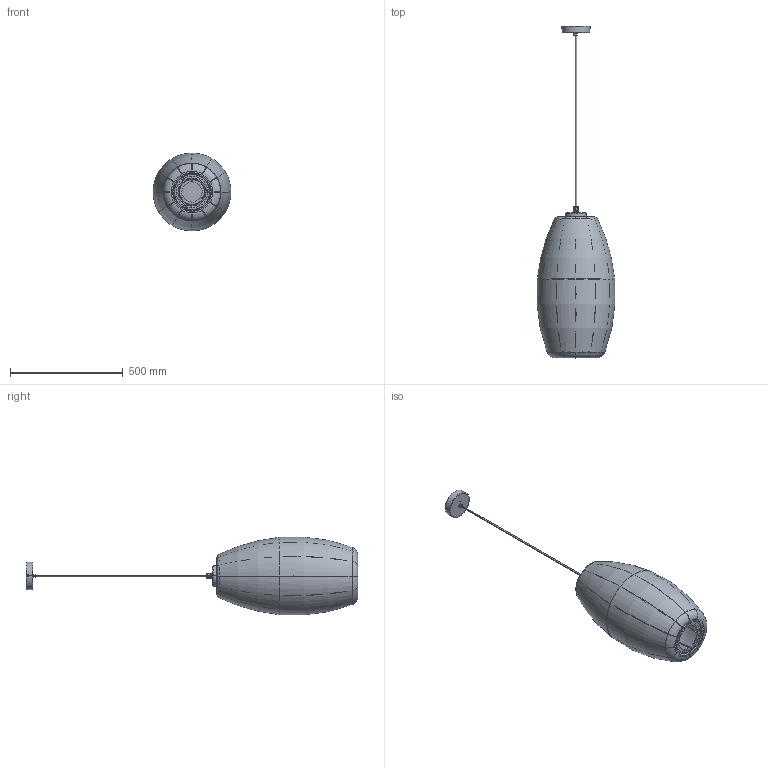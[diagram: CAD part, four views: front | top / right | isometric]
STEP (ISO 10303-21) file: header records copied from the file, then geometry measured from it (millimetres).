
FILE_DESCRIPTION (( 'STEP AP203' ), '1' );
FILE_NAME ('CA.S134.16.STEP', '2026-03-09T13:38:17', ( '' ), ( '' ), 'SwSTEP 2.0', 'SolidWorks 2013', '' );
FILE_SCHEMA (( 'CONFIG_CONTROL_DESIGN' ));
Length unit declared in the file: millimetre
Products named in the file (22): EK44; GI429_Disco Ø136_Ø92; DIN7380 M3x10; AR071_FLORÓ ø120x30 2xM4 sistema USA; GI420_disc embellidor Ø110_Ø90 3T Ø3.8; AR115_Caixa conjunt LED + disc Ø108 soldat; famella premsaestopa M16x1.5; TC170_Difusor Ø110 3T Ø3.8; AMS352_Armaçó Ø340x620 12 radis (entrada plana)_v2; XV001_Suport alumini Ø110x20_230724; Conjunt NOU mòdul LED; CG-M16-1_PREMSAESTOPA M16; AR115.01_Caixa amb escaló Ø111x46; CA.S134.16; AR115.02_Disc Ø108 3T M3; GI416_Disc embellidor Ø156_Ø122; TECH144.16_Conjunt LED outdoor_2023; AG019_M4x8; KO014_CABLE TRANSP.800mm; Ø70_CL386_XI_BB 11,4W a 500mA (EA); S-12-02-FOAM; Teixit pantalla Ø345x625
Assembly tree (26 placements, depth 5):
  CA.S134.16
    TECH144.16_Conjunt LED outdoor_2023
      KO014_CABLE TRANSP.800mm
      AR071_FLORÓ ø120x30 2xM4 sistema USA
      EK44
      AG019_M4x8  x2
      Conjunt NOU mòdul LED
        AR115_Caixa conjunt LED + disc Ø108 soldat
          AR115.01_Caixa amb escaló Ø111x46
          AR115.02_Disc Ø108 3T M3
        XV001_Suport alumini Ø110x20_230724
        Ø70_CL386_XI_BB 11,4W a 500mA (EA)
        TC170_Difusor Ø110 3T Ø3.8
        CG-M16-1_PREMSAESTOPA M16
        GI420_disc embellidor Ø110_Ø90 3T Ø3.8
        famella premsaestopa M16x1.5
        DIN7380 M3x10  x3
    GI416_Disc embellidor Ø156_Ø122
    AMS352_Armaçó Ø340x620 12 radis (entrada plana)_v2
    S-12-02-FOAM  x3
    Teixit pantalla Ø345x625
    GI429_Disco Ø136_Ø92
Bounding box: 346.28 x 1474.19 x 345.7 mm (x, y, z)
Volume: 1035456.2 mm3; surface area: 1685684.3 mm2
Topology: 26 solids, 26 shells, 786 faces, 1925 edges, 1204 vertices
Faces by surface type: plane 317, cylinder 228, torus 190, cone 47, bspline 4
Entity records: 25394 total; most frequent: CARTESIAN_POINT 5513, DIRECTION 3894, ORIENTED_EDGE 3498, EDGE_CURVE 1749, AXIS2_PLACEMENT_3D 1555, VERTEX_POINT 1098, CIRCLE 818, EDGE_LOOP 817
